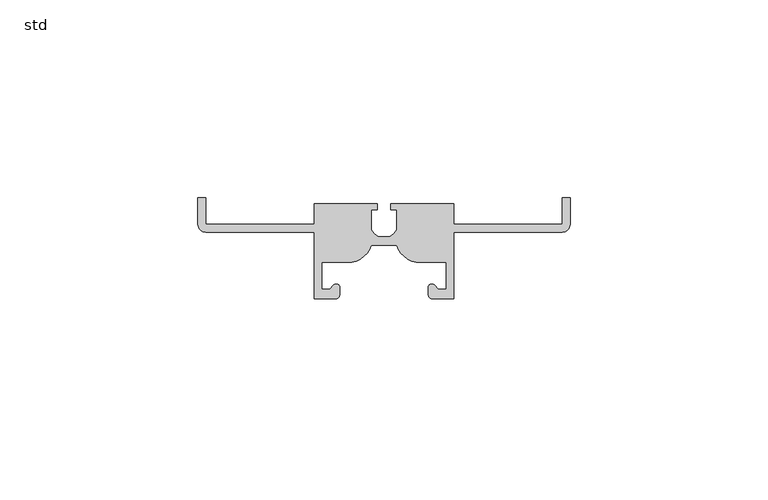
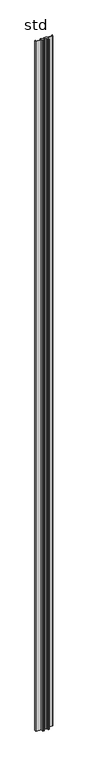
"""IFC4 building model written with IfcOpenShell, lengths in millimetres: column geometry, NLRS_21_COL_drager ST.0240_Storax : std."""

from ifc_helpers import new_model, si_unit, point, frame_2d, origin, origin_with_axes, place, context, project, spatial, polyline, circle_curve, trimmed, segment, composite_curve, outline, extrude, source, transform, mapped, element, save


def std_01971508(model_context):
    return source(origin(), model_context, "Body", "SweptSolid", [
        extrude(outline(composite_curve([segment(polyline([(-47.0, -7.6257936), (-47.0, -1.0), (-44.9912581, -1.0), (-44.9912581, -7.611542), (-17.6599764, -7.611542), (-17.6599764, -2.5065082), (-1.6945192, -2.5065082), (-1.6945192, -4.0065082), (-3.1741489, -4.0065082), (-3.1741489, -9.0065082)]), True, "CONTINUOUS"), segment(trimmed(circle_curve(frame_2d((-0.0039792, -7.6048296)), 3.4662197), [point((-3.1741489, -9.0065082))], [point((-1.4056577, -10.7749993))], True, "CARTESIAN"), True, "CONTINUOUS"), segment(polyline([(-1.4056577, -10.7749993), (1.4056577, -10.7749993)]), True, "CONTINUOUS"), segment(trimmed(circle_curve(frame_2d((0.0039792, -7.6048296)), 3.4662197), [point((1.4056577, -10.7749993))], [point((3.1741489, -9.0065082))], True, "CARTESIAN"), True, "CONTINUOUS"), segment(polyline([(3.1741489, -9.0065082), (3.1741489, -4.0065082), (1.6945192, -4.0065082), (1.6945192, -2.5065082), (17.6599764, -2.5065082), (17.6599764, -7.611542), (44.9912581, -7.611542), (44.9912581, -1.0), (47.0, -1.0), (47.0, -7.6257936)]), True, "CONTINUOUS"), segment(trimmed(circle_curve(frame_2d((44.9912581, -7.6257936)), 2.0087419), [point((47.0, -7.6257936))], [point((44.9912581, -9.6345355))], False, "CARTESIAN"), True, "CONTINUOUS"), segment(polyline([(44.9912581, -9.6345355), (17.6599764, -9.6345355), (17.6599764, -26.5), (12.3468461, -26.5)]), True, "CONTINUOUS"), segment(trimmed(circle_curve(frame_2d((12.3468461, -25.3135005)), 1.1864995), [point((12.3468461, -26.5))], [point((11.1603466, -25.3135005))], False, "CARTESIAN"), True, "CONTINUOUS"), segment(polyline([(11.1603466, -25.3135005), (11.1603466, -23.3009057)]), True, "CONTINUOUS"), segment(trimmed(circle_curve(frame_2d((12.1227149, -23.8515635)), 1.1087726), [point((11.1603466, -23.3009057))], [point((12.8614271, -23.0247134))], False, "CARTESIAN"), True, "CONTINUOUS"), segment(polyline([(12.8614271, -23.0247134), (13.7509755, -24.1232143), (15.6734126, -24.1232143), (15.6734126, -17.2531745), (8.1368198, -17.2531745)]), True, "CONTINUOUS"), segment(trimmed(circle_curve(frame_2d((9.367927, -10.8255058)), 6.5445053), [point((8.1368198, -17.2531745))], [point((3.1741489, -12.9391905))], False, "CARTESIAN"), True, "CONTINUOUS"), segment(polyline([(3.1741489, -12.9391905), (-3.1741489, -12.9391905)]), True, "CONTINUOUS"), segment(trimmed(circle_curve(frame_2d((-9.367927, -10.8255058)), 6.5445053), [point((-3.1741489, -12.9391905))], [point((-8.1368198, -17.2531745))], False, "CARTESIAN"), True, "CONTINUOUS"), segment(polyline([(-8.1368198, -17.2531745), (-15.6734126, -17.2531745), (-15.6734126, -24.1232143), (-13.7509755, -24.1232143), (-12.8614271, -23.0247134)]), True, "CONTINUOUS"), segment(trimmed(circle_curve(frame_2d((-12.1227149, -23.8515635)), 1.1087726), [point((-12.8614271, -23.0247134))], [point((-11.1603466, -23.3009057))], False, "CARTESIAN"), True, "CONTINUOUS"), segment(polyline([(-11.1603466, -23.3009057), (-11.1603466, -25.3135005)]), True, "CONTINUOUS"), segment(trimmed(circle_curve(frame_2d((-12.3468461, -25.3135005)), 1.1864995), [point((-11.1603466, -25.3135005))], [point((-12.3468461, -26.5))], False, "CARTESIAN"), True, "CONTINUOUS"), segment(polyline([(-12.3468461, -26.5), (-17.6599764, -26.5), (-17.6599764, -9.6345355), (-44.9912581, -9.6345355)]), True, "CONTINUOUS"), segment(trimmed(circle_curve(frame_2d((-44.9912581, -7.6257936)), 2.0087419), [point((-44.9912581, -9.6345355))], [point((-47.0, -7.6257936))], False, "CARTESIAN"), True, "CONTINUOUS")], self_intersect=False)), origin_with_axes(), (0.0, 0.0, 1.0), 4000.0),
    ])


if __name__ == "__main__":
    model = new_model("IFC4")
    model_context = context("Model", 3, world=origin())
    ifc_project = project(units=[si_unit("LENGTHUNIT", "METRE", prefix="MILLI")], contexts=[model_context])
    site = spatial("IfcSite", under=ifc_project)
    building = spatial("IfcBuilding", under=site)
    placement = place(None, origin())
    std_shape = std_01971508(model_context)
    element("IfcColumn", 1, ObjectType="NLRS_21_COL_drager ST.0240_Storax : std", at=placement, inside=building, context=model_context, shape_type="MappedRepresentation", body=[
        mapped(std_shape, transform((0.0, 0.0, 0.0), x_axis=(1.0, 0.0, 0.0), y_axis=(0.0, 1.0, 0.0), z_axis=(0.0, 0.0, 1.0))),
    ])
    save(model, "model.ifc")
